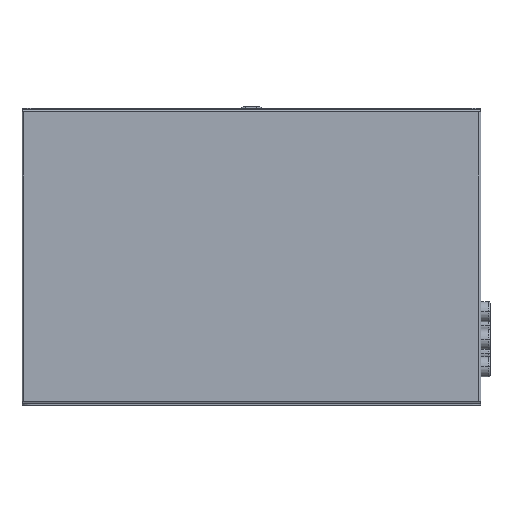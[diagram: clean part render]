
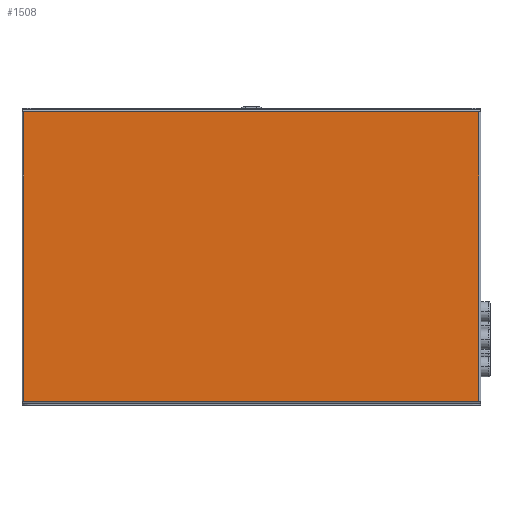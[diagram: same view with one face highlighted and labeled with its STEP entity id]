
A CAD part, front view. The second image highlights one B-rep face of the part: STEP entity #1508.
In plain terms, the highlighted planar face has unit normal (0, -1, 0).
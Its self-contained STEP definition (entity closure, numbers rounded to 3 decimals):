
#10=DIRECTION('',(0.,0.,1.));
#11=VECTOR('',#10,158.);
#12=CARTESIAN_POINT('',(-124.,0.,-79.));
#13=LINE('',#12,#11);
#264=DIRECTION('',(-1.,0.,0.));
#265=VECTOR('',#264,248.);
#266=CARTESIAN_POINT('',(124.,0.,-79.));
#267=LINE('',#266,#265);
#394=DIRECTION('',(0.,0.,-1.));
#395=VECTOR('',#394,158.);
#396=CARTESIAN_POINT('',(124.,0.,79.));
#397=LINE('',#396,#395);
#648=DIRECTION('',(1.,0.,0.));
#649=VECTOR('',#648,248.);
#650=CARTESIAN_POINT('',(-124.,0.,79.));
#651=LINE('',#650,#649);
#1245=CARTESIAN_POINT('',(124.,0.,79.));
#1246=VERTEX_POINT('',#1245);
#1249=CARTESIAN_POINT('',(124.,0.,-79.));
#1250=VERTEX_POINT('',#1249);
#1285=CARTESIAN_POINT('',(-124.,0.,-79.));
#1286=VERTEX_POINT('',#1285);
#1289=CARTESIAN_POINT('',(-124.,0.,79.));
#1290=VERTEX_POINT('',#1289);
#1493=CARTESIAN_POINT('',(0.,0.,0.));
#1494=DIRECTION('',(0.,1.,0.));
#1495=DIRECTION('',(1.,0.,0.));
#1496=AXIS2_PLACEMENT_3D('',#1493,#1494,#1495);
#1497=PLANE('',#1496);
#1499=ORIENTED_EDGE('',*,*,#1498,.T.);
#1501=ORIENTED_EDGE('',*,*,#1500,.T.);
#1503=ORIENTED_EDGE('',*,*,#1502,.T.);
#1505=ORIENTED_EDGE('',*,*,#1504,.T.);
#1506=EDGE_LOOP('',(#1499,#1501,#1503,#1505));
#1507=FACE_OUTER_BOUND('',#1506,.F.);
#1508=ADVANCED_FACE('',(#1507),#1497,.F.);
#1498=EDGE_CURVE('',#1286,#1290,#13,.T.);
#1500=EDGE_CURVE('',#1290,#1246,#651,.T.);
#1502=EDGE_CURVE('',#1246,#1250,#397,.T.);
#1504=EDGE_CURVE('',#1250,#1286,#267,.T.);
